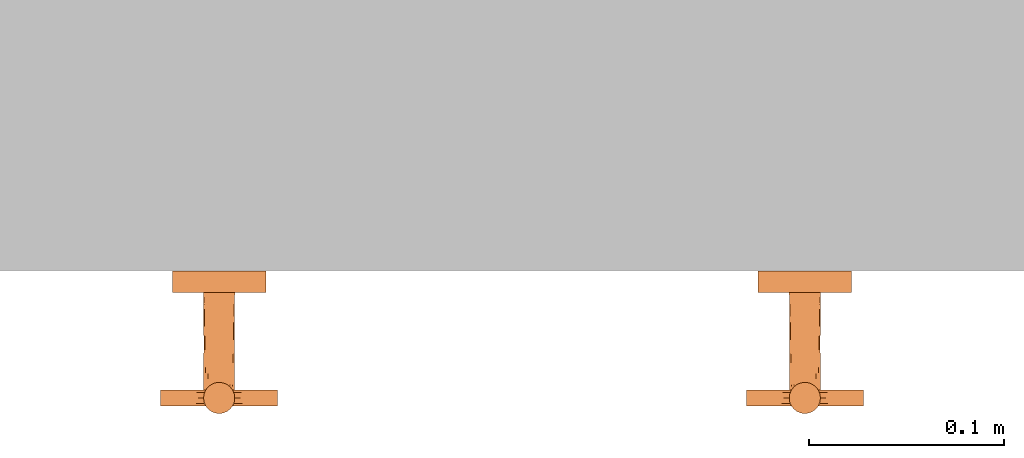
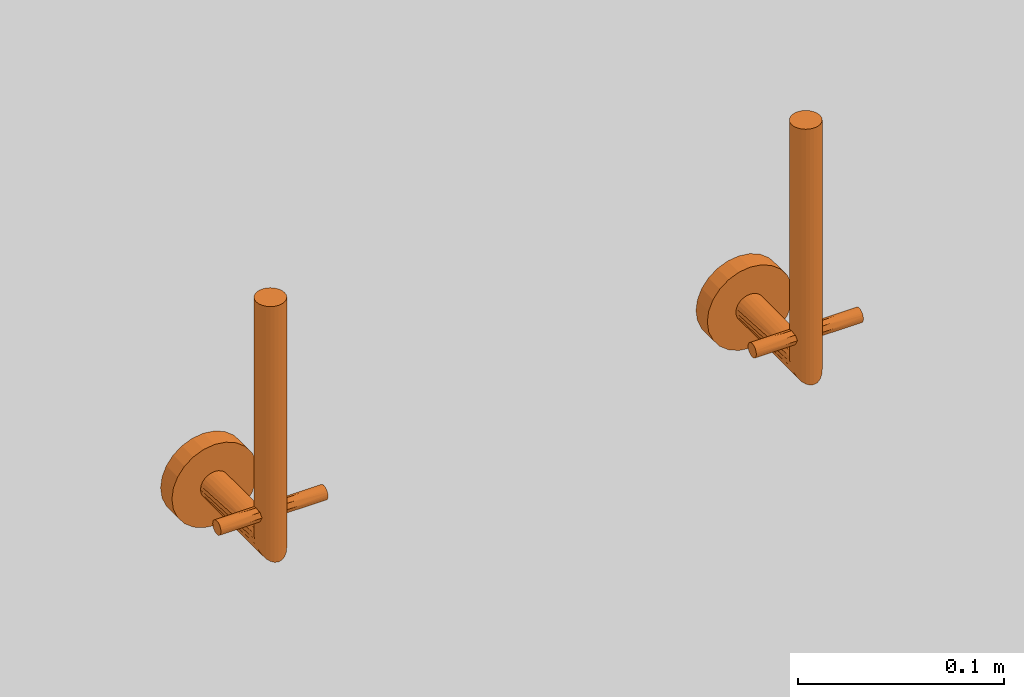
# One storey, part 2 of 3: 2 proxies.
"""IFC2X3 building model written with IfcOpenShell, lengths in millimetres."""

from ifc_helpers import new_model, entity, si_unit, converted_unit, derived_unit, direction, frame, origin, place, context, subcontext, project, spatial, faceted_brep, source, transform, mapped, material, type_object, type_shapes, element, save


model = new_model("IFC2X3")

# Units and contexts
model_context = context("Model", 3, precision=0.01, world=origin(), true_north=direction((6.12303176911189e-17, 1.0)))
body_context = subcontext(model_context, "Body", "Model", "MODEL_VIEW")
ifc_project = project(units=[si_unit("LENGTHUNIT", "METRE", prefix="MILLI"), si_unit("AREAUNIT", "SQUARE_METRE"), si_unit("VOLUMEUNIT", "CUBIC_METRE"), converted_unit("PLANEANGLEUNIT", "DEGREE", entity("IfcRatioMeasure", 0.0174532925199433), si_unit("PLANEANGLEUNIT", "RADIAN"), dimensions=[0, 0, 0, 0, 0, 0, 0]), si_unit("MASSUNIT", "GRAM", prefix="KILO"), derived_unit("MASSDENSITYUNIT", [(si_unit("MASSUNIT", "GRAM", prefix="KILO"), 1), (si_unit("LENGTHUNIT", "METRE"), -3)]), si_unit("TIMEUNIT", "SECOND"), si_unit("FREQUENCYUNIT", "HERTZ"), si_unit("THERMODYNAMICTEMPERATUREUNIT", "DEGREE_CELSIUS"), derived_unit("THERMALTRANSMITTANCEUNIT", [(si_unit("MASSUNIT", "GRAM", prefix="KILO"), 1), (si_unit("THERMODYNAMICTEMPERATUREUNIT", "KELVIN"), -1), (si_unit("TIMEUNIT", "SECOND"), -3)]), derived_unit("VOLUMETRICFLOWRATEUNIT", [(si_unit("LENGTHUNIT", "METRE"), 3), (si_unit("TIMEUNIT", "SECOND"), -1)]), si_unit("ELECTRICCURRENTUNIT", "AMPERE"), si_unit("ELECTRICVOLTAGEUNIT", "VOLT"), si_unit("POWERUNIT", "WATT"), si_unit("FORCEUNIT", "NEWTON", prefix="KILO"), si_unit("ILLUMINANCEUNIT", "LUX"), si_unit("LUMINOUSFLUXUNIT", "LUMEN"), si_unit("LUMINOUSINTENSITYUNIT", "CANDELA"), derived_unit("USERDEFINED", [(si_unit("MASSUNIT", "GRAM", prefix="KILO"), -1), (si_unit("LENGTHUNIT", "METRE"), -2), (si_unit("TIMEUNIT", "SECOND"), 3), (si_unit("LUMINOUSFLUXUNIT", "LUMEN"), 1)]), derived_unit("LINEARVELOCITYUNIT", [(si_unit("LENGTHUNIT", "METRE"), 1), (si_unit("TIMEUNIT", "SECOND"), -1)]), si_unit("PRESSUREUNIT", "PASCAL"), derived_unit("USERDEFINED", [(si_unit("LENGTHUNIT", "METRE"), -2), (si_unit("MASSUNIT", "GRAM", prefix="KILO"), 1), (si_unit("TIMEUNIT", "SECOND"), -2)])], contexts=[model_context])

# Site, building, storey
site_placement = place(None, origin())
site = spatial("IfcSite", under=ifc_project, at=site_placement, Name="Default", CompositionType="ELEMENT")
building_placement = place(site_placement, origin())
building = spatial("IfcBuilding", under=site, at=building_placement, CompositionType="ELEMENT")
storey_placement = place(building_placement, origin())
storey = spatial("IfcBuildingStorey", under=building, at=storey_placement, Name="Level 0", CompositionType="ELEMENT", Elevation=0.0)

# Proxies
ifc_material_1 = material(Name="Duten_Metal_MatteBlack")
building_element_proxy_type_1 = type_object("IfcBuildingElementProxyType", Name="Matte Black", PredefinedType="USERDEFINED", material=ifc_material_1)
shared_shape_1 = source(origin(), body_context, "Body", "Brep", [
    faceted_brep([(37.4826511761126, 62.1698177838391, 40.7686012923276), (36.9282032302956, 61.0, 43.5952722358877), (37.4826511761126, 62.1698177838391, 46.4219431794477), (38.0, 65.0, 47.5952722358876), (38.0, 65.0, 39.5952722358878), (60.0, 63.9647238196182, 47.4589755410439), (60.0, 63.0, 47.0593738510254), (60.0, 62.1715728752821, 46.4236993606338), (60.0, 61.5358983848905, 45.5952722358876), (60.0, 61.136296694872, 44.6305484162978), (60.0, 61.0, 43.5952722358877), (60.0, 61.136296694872, 42.5599960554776), (60.0, 61.5358983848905, 41.5952722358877), (60.0, 62.1715728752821, 40.7668451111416), (60.0, 63.0, 40.1311706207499), (60.0, 63.9647238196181, 39.7315689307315), (60.0, 65.0, 39.5952722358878), (60.0, 66.0352761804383, 39.7315689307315), (60.0, 67.0, 40.1311706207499), (60.0, 67.8284271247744, 40.7668451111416), (60.0, 68.4641016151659, 41.5952722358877), (60.0, 68.8637033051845, 42.5599960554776), (60.0, 69.0, 43.5952722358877), (60.0, 68.8637033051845, 44.6305484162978), (60.0, 68.4641016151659, 45.5952722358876), (60.0, 67.8284271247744, 46.4236993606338), (60.0, 67.0, 47.0593738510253), (60.0, 66.0352761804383, 47.4589755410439), (60.0, 65.0, 47.5952722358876), (36.9282032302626, 69.0, 43.5952722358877), (37.4826511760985, 67.8301822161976, 46.4219431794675), (37.4826511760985, 67.8301822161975, 40.7686012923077)], [[[0, 1, 2]], [[3, 4, 0, 2]], [[5, 6, 7, 8, 9, 10, 11, 12, 13, 14, 15, 16, 17, 18, 19, 20, 21, 22, 23, 24, 25, 26, 27, 28]], [[23, 29, 30]], [[3, 28, 27]], [[3, 26, 30]], [[27, 26, 3]], [[22, 29, 23]], [[30, 25, 24]], [[24, 23, 30]], [[25, 30, 26]], [[6, 3, 2]], [[2, 1, 9]], [[10, 9, 1]], [[5, 3, 6]], [[2, 8, 7]], [[7, 6, 2]], [[8, 2, 9]], [[3, 5, 28]], [[11, 1, 0]], [[4, 16, 15]], [[4, 14, 0]], [[15, 14, 4]], [[10, 1, 11]], [[12, 11, 0]], [[0, 13, 12]], [[0, 14, 13]], [[18, 4, 31]], [[31, 29, 21]], [[22, 21, 29]], [[18, 17, 4]], [[20, 19, 31]], [[21, 20, 31]], [[18, 31, 19]], [[4, 17, 16]], [[30, 31, 4, 3]], [[29, 31, 30]]]),
    faceted_brep([(22.5173488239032, 67.8301822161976, 40.7686012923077), (23.0717967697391, 69.0, 43.5952722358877), (22.5173488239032, 67.8301822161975, 46.4219431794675), (22.0, 65.0, 47.5952722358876), (22.0, 65.0, 39.5952722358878), (23.071796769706, 61.0, 43.5952722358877), (0.0, 61.0, 43.5952722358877), (0.0, 61.136296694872, 42.5599960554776), (0.0, 61.5358983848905, 41.5952722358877), (22.5173488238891, 62.1698177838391, 40.7686012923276), (0.0, 62.171572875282, 40.7668451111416), (0.0, 63.0, 40.1311706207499), (0.0, 63.9647238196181, 39.7315689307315), (0.0, 65.0, 39.5952722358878), (0.0, 66.0352761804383, 39.7315689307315), (0.0, 67.0, 40.1311706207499), (0.0, 67.8284271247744, 40.7668451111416), (0.0, 68.4641016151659, 41.5952722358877), (0.0, 68.8637033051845, 42.5599960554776), (0.0, 69.0, 43.5952722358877), (0.0, 68.8637033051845, 44.6305484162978), (0.0, 68.464101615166, 45.5952722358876), (0.0, 67.8284271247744, 46.4236993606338), (0.0, 67.0, 47.0593738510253), (0.0, 66.0352761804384, 47.4589755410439), (0.0, 65.0, 47.5952722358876), (0.0, 63.9647238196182, 47.4589755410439), (0.0, 63.0, 47.0593738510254), (22.5173488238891, 62.1698177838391, 46.4219431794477), (0.0, 62.1715728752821, 46.4236993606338), (0.0, 61.5358983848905, 45.5952722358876), (0.0, 61.136296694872, 44.6305484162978)], [[[0, 1, 2]], [[3, 4, 0, 2]], [[5, 6, 7]], [[7, 8, 9]], [[10, 9, 8]], [[5, 7, 9]], [[11, 12, 4]], [[4, 12, 13]], [[11, 4, 9]], [[10, 11, 9]], [[14, 15, 4]], [[15, 0, 4]], [[16, 0, 15]], [[0, 17, 18]], [[17, 0, 16]], [[18, 19, 1]], [[18, 1, 0]], [[14, 4, 13]], [[1, 19, 20]], [[20, 21, 2]], [[22, 2, 21]], [[1, 20, 2]], [[23, 24, 3]], [[3, 24, 25]], [[23, 3, 2]], [[22, 23, 2]], [[26, 27, 3]], [[27, 28, 3]], [[29, 28, 27]], [[28, 30, 31]], [[30, 28, 29]], [[31, 6, 5]], [[31, 5, 28]], [[26, 3, 25]], [[12, 11, 10, 8, 7, 6, 31, 30, 29, 27, 26, 25, 24, 23, 22, 21, 20, 19, 18, 17, 16, 15, 14, 13]], [[28, 9, 4, 3]], [[5, 9, 28]]]),
    faceted_brep([(22.0, 11.0, 25.5952722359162), (22.272593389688, 11.0, 23.524719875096), (23.0717967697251, 11.0, 21.5952722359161), (24.3431457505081, 11.0, 19.9384179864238), (26.0, 11.0, 18.6670690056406), (27.9294476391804, 11.0, 17.8678656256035), (30.0, 11.0, 17.5952722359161), (32.0705523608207, 11.0, 17.8678656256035), (34.0, 11.0, 18.6670690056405), (35.656854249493, 11.0, 19.9384179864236), (36.9282032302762, 11.0, 21.595272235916), (37.7274066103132, 11.0, 23.5247198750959), (38.0, 11.0, 25.5952722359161), (37.7274066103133, 11.0, 27.6658245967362), (36.9282032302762, 11.0, 29.5952722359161), (35.6568542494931, 11.0, 31.2521264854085), (34.0, 11.0, 32.5234754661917), (32.0705523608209, 11.0, 33.3226788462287), (30.0, 11.0, 33.5952722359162), (27.9294476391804, 11.0, 33.3226788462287), (26.0, 11.0, 32.5234754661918), (24.3431457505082, 11.0, 31.2521264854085), (23.0717967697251, 11.0, 29.5952722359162), (22.272593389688, 11.0, 27.6658245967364), (30.0, 73.0, 17.5952722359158), (32.0705523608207, 72.7274066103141, 17.8678656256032), (34.0, 71.9282032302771, 18.6670690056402), (35.656854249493, 70.656854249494, 19.9384179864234), (36.9282032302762, 69.0, 21.5952722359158), (37.7274066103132, 67.0705523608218, 23.5247198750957), (38.0, 65.0, 25.5952722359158), (37.7274066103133, 62.9294476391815, 27.665824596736), (36.9282032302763, 61.0, 29.5952722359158), (35.6568542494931, 59.3431457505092, 31.2521264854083), (32.0705523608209, 57.272593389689, 33.3226788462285), (30.0, 57.0, 33.595272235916), (34.0, 58.071796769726, 32.5234754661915), (26.0, 58.0717967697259, 32.5234754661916), (24.3431457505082, 59.3431457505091, 31.2521264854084), (27.9294476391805, 57.2725933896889, 33.3226788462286), (23.071796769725, 61.0, 29.595272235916), (22.272593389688, 62.9294476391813, 27.665824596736), (22.0, 65.0, 25.5952722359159), (23.071796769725, 69.0, 21.5952722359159), (22.272593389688, 67.0705523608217, 23.5247198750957), (24.3431457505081, 70.6568542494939, 19.9384179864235), (26.0, 71.9282032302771, 18.6670690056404), (27.9294476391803, 72.7274066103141, 17.8678656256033), (22.0, 65.0, 169.595272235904), (22.2725933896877, 62.9294476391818, 169.595272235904), (23.0717967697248, 61.0, 169.595272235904), (24.3431457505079, 59.3431457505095, 169.595272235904), (26.0, 58.0717967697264, 169.595272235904), (27.9294476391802, 57.2725933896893, 169.595272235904), (30.0, 57.0, 169.595272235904), (32.0705523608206, 57.2725933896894, 169.595272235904), (34.0, 58.0717967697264, 169.595272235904), (35.6568542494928, 59.3431457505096, 169.595272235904), (36.9282032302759, 61.0, 169.595272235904), (37.727406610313, 62.9294476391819, 169.595272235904), (38.0, 65.0, 169.595272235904), (37.727406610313, 67.0705523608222, 169.595272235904), (36.9282032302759, 69.0, 169.595272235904), (35.6568542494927, 70.6568542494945, 169.595272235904), (34.0, 71.9282032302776, 169.595272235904), (32.0705523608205, 72.7274066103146, 169.595272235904), (30.0, 73.0, 169.595272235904), (27.92944763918, 72.7274066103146, 169.595272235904), (26.0, 71.9282032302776, 169.595272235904), (24.3431457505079, 70.6568542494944, 169.595272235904), (23.0717967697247, 69.0, 169.595272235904), (22.2725933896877, 67.0705523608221, 169.595272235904)], [[[0, 1, 2, 3, 4, 5, 6, 7, 8, 9, 10, 11, 12, 13, 14, 15, 16, 17, 18, 19, 20, 21, 22, 23]], [[6, 24, 25, 7]], [[26, 7, 25]], [[8, 27, 28]], [[26, 27, 7]], [[9, 28, 29]], [[27, 8, 7]], [[11, 30, 31]], [[30, 11, 10]], [[9, 29, 10]], [[9, 8, 28]], [[29, 30, 10]], [[32, 33, 13]], [[31, 32, 12]], [[34, 35, 18, 17]], [[36, 34, 17, 16]], [[33, 36, 16, 15]], [[33, 14, 13]], [[13, 12, 32]], [[15, 14, 33]], [[31, 12, 11]], [[37, 38, 21, 20]], [[39, 37, 20, 19]], [[0, 40, 41]], [[23, 40, 0]], [[38, 40, 23]], [[35, 39, 19, 18]], [[22, 21, 38]], [[38, 23, 22]], [[41, 42, 1]], [[43, 3, 44]], [[45, 4, 43]], [[5, 46, 47]], [[45, 46, 5]], [[6, 5, 47, 24]], [[2, 1, 42]], [[0, 41, 1]], [[5, 4, 45]], [[3, 43, 4]], [[3, 2, 44]], [[42, 44, 2]], [[48, 49, 50, 51, 52, 53, 54, 55, 56, 57, 58, 59, 60, 61, 62, 63, 64, 65, 66, 67, 68, 69, 70, 71]], [[65, 64, 26, 25]], [[66, 65, 25, 24]], [[62, 61, 29, 28]], [[63, 62, 28, 27]], [[64, 63, 27, 26]], [[61, 60, 30, 29]], [[58, 57, 33, 32]], [[59, 58, 32, 31]], [[55, 54, 35, 34]], [[56, 55, 34, 36]], [[57, 56, 36, 33]], [[59, 31, 30, 60]], [[53, 52, 37, 39]], [[54, 53, 39, 35]], [[50, 49, 41, 40]], [[51, 50, 40, 38]], [[52, 51, 38, 37]], [[48, 42, 41, 49]], [[70, 69, 45, 43]], [[71, 70, 43, 44]], [[46, 68, 67, 47]], [[69, 68, 46, 45]], [[66, 24, 47, 67]], [[44, 42, 48, 71]]]),
    faceted_brep([(18.0, 0.0, 46.3798819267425), (13.0294372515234, 0.0, 42.5658349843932), (9.21539030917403, 0.0, 37.5952722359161), (6.81778016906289, 0.0, 31.8069293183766), (6.0, 0.0, 25.595272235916), (6.81778016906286, 0.0, 19.3836151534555), (9.21539030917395, 0.0, 13.595272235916), (13.0294372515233, 0.0, 8.62470948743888), (18.0, 0.0, 4.81066254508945), (23.78834291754, 0.0, 2.4130524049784), (30.0, 0.0, 1.59527223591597), (36.211657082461, 0.0, 2.41305240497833), (42.0, 0.0, 4.81066254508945), (46.9705627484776, 0.0, 8.62470948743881), (50.784609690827, 0.0, 13.5952722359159), (53.1822198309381, 0.0, 19.3836151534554), (54.0, 0.0, 25.5952722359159), (53.1822198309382, 0.0, 31.8069293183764), (50.7846096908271, 0.0, 37.595272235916), (46.9705627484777, 0.0, 42.565834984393), (42.0, 0.0, 46.3798819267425), (36.2116570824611, 0.0, 48.7774920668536), (30.0, 0.0, 49.5952722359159), (23.7883429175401, 0.0, 48.7774920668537), (23.78834291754, 11.0, 2.4130524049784), (18.0, 11.0, 4.81066254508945), (13.0294372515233, 11.0, 8.62470948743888), (9.21539030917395, 11.0, 13.595272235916), (6.81778016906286, 11.0, 19.3836151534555), (6.0, 11.0, 25.5952722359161), (6.81778016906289, 11.0, 31.8069293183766), (9.21539030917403, 11.0, 37.5952722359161), (13.0294372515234, 11.0, 42.5658349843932), (18.0, 11.0, 46.3798819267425), (23.7883429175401, 11.0, 48.7774920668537), (30.0, 11.0, 49.5952722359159), (36.2116570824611, 11.0, 48.7774920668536), (42.0, 11.0, 46.3798819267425), (46.9705627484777, 11.0, 42.565834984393), (50.7846096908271, 11.0, 37.595272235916), (53.1822198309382, 11.0, 31.8069293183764), (54.0, 11.0, 25.5952722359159), (53.1822198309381, 11.0, 19.3836151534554), (50.784609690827, 11.0, 13.5952722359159), (46.9705627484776, 11.0, 8.62470948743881), (42.0, 11.0, 4.81066254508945), (36.211657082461, 11.0, 2.41305240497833), (30.0, 11.0, 1.59527223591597)], [[[0, 1, 2, 3, 4, 5, 6, 7, 8, 9, 10, 11, 12, 13, 14, 15, 16, 17, 18, 19, 20, 21, 22, 23]], [[24, 25, 26, 27, 28, 29, 30, 31, 32, 33, 34, 35, 36, 37, 38, 39, 40, 41, 42, 43, 44, 45, 46, 47]], [[40, 17, 16, 41]], [[39, 18, 17, 40]], [[20, 19, 38, 37]], [[39, 38, 19, 18]], [[21, 20, 37, 36]], [[22, 21, 36, 35]], [[34, 23, 22, 35]], [[33, 0, 23, 34]], [[2, 1, 32, 31]], [[33, 32, 1, 0]], [[3, 2, 31, 30]], [[4, 3, 30, 29]], [[28, 5, 4, 29]], [[27, 6, 5, 28]], [[8, 7, 26, 25]], [[27, 26, 7, 6]], [[9, 8, 25, 24]], [[10, 9, 24, 47]], [[46, 11, 10, 47]], [[45, 12, 11, 46]], [[14, 13, 44, 43]], [[45, 44, 13, 12]], [[15, 14, 43, 42]], [[16, 15, 42, 41]]]),
])
type_shapes(building_element_proxy_type_1, [shared_shape_1])
proxy_1_placement = place(storey_placement, frame((-4532.06711548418, 781.719275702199, 574.404727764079), z_axis=(0.0, 0.0, 1.0), x_axis=(-1.0, 0.0, 0.0)))
element("IfcBuildingElementProxy", 1, at=proxy_1_placement, inside=storey, type_object=building_element_proxy_type_1, material=ifc_material_1, Name="Duten_PprRllDpnsrs_H107:Matte Black", ObjectType="Matte Black", context=body_context, shape_type="MappedRepresentation", body=[
    mapped(shared_shape_1, transform((0.0, 0.0, 0.0), scale=1.0)),
])
ifc_material_2 = material(Name="Duten_Metal_Polished")
building_element_proxy_type_2 = type_object("IfcBuildingElementProxyType", Name="Polished Stainless Steel", PredefinedType="USERDEFINED", material=ifc_material_2)
shared_shape_2 = source(origin(), body_context, "Body", "Brep", [
    faceted_brep([(37.4826511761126, 62.1698177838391, 40.7686012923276), (36.9282032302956, 61.0, 43.5952722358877), (37.4826511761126, 62.1698177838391, 46.4219431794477), (38.0, 65.0, 47.5952722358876), (38.0, 65.0, 39.5952722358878), (60.0, 63.9647238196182, 47.4589755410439), (60.0, 63.0, 47.0593738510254), (60.0, 62.1715728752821, 46.4236993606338), (60.0, 61.5358983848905, 45.5952722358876), (60.0, 61.136296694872, 44.6305484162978), (60.0, 61.0, 43.5952722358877), (60.0, 61.136296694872, 42.5599960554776), (60.0, 61.5358983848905, 41.5952722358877), (60.0, 62.1715728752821, 40.7668451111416), (60.0, 63.0, 40.1311706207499), (60.0, 63.9647238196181, 39.7315689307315), (60.0, 65.0, 39.5952722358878), (60.0, 66.0352761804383, 39.7315689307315), (60.0, 67.0, 40.1311706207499), (60.0, 67.8284271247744, 40.7668451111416), (60.0, 68.4641016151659, 41.5952722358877), (60.0, 68.8637033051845, 42.5599960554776), (60.0, 69.0, 43.5952722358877), (60.0, 68.8637033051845, 44.6305484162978), (60.0, 68.4641016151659, 45.5952722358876), (60.0, 67.8284271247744, 46.4236993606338), (60.0, 67.0, 47.0593738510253), (60.0, 66.0352761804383, 47.4589755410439), (60.0, 65.0, 47.5952722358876), (36.9282032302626, 69.0, 43.5952722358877), (37.4826511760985, 67.8301822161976, 46.4219431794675), (37.4826511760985, 67.8301822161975, 40.7686012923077)], [[[0, 1, 2]], [[3, 4, 0, 2]], [[5, 6, 7, 8, 9, 10, 11, 12, 13, 14, 15, 16, 17, 18, 19, 20, 21, 22, 23, 24, 25, 26, 27, 28]], [[23, 29, 30]], [[3, 28, 27]], [[3, 26, 30]], [[27, 26, 3]], [[22, 29, 23]], [[30, 25, 24]], [[24, 23, 30]], [[25, 30, 26]], [[6, 3, 2]], [[2, 1, 9]], [[10, 9, 1]], [[5, 3, 6]], [[2, 8, 7]], [[7, 6, 2]], [[8, 2, 9]], [[3, 5, 28]], [[11, 1, 0]], [[4, 16, 15]], [[4, 14, 0]], [[15, 14, 4]], [[10, 1, 11]], [[12, 11, 0]], [[0, 13, 12]], [[0, 14, 13]], [[18, 4, 31]], [[31, 29, 21]], [[22, 21, 29]], [[18, 17, 4]], [[20, 19, 31]], [[21, 20, 31]], [[18, 31, 19]], [[4, 17, 16]], [[30, 31, 4, 3]], [[29, 31, 30]]]),
    faceted_brep([(23.071796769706, 61.0, 43.5952722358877), (0.0, 61.0, 43.5952722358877), (0.0, 61.136296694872, 42.5599960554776), (0.0, 61.5358983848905, 41.5952722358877), (22.5173488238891, 62.1698177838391, 40.7686012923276), (0.0, 62.171572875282, 40.7668451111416), (0.0, 63.0, 40.1311706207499), (0.0, 63.9647238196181, 39.7315689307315), (22.0, 65.0, 39.5952722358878), (0.0, 65.0, 39.5952722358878), (0.0, 66.0352761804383, 39.7315689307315), (0.0, 67.0, 40.1311706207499), (22.5173488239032, 67.8301822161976, 40.7686012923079), (0.0, 67.8284271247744, 40.7668451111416), (0.0, 68.4641016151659, 41.5952722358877), (0.0, 68.8637033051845, 42.5599960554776), (0.0, 69.0, 43.5952722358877), (23.0717967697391, 69.0, 43.5952722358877), (22.5173488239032, 67.8301822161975, 46.4219431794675), (22.0, 65.0, 47.5952722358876), (0.0, 68.8637033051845, 44.6305484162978), (0.0, 68.464101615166, 45.5952722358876), (0.0, 67.8284271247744, 46.4236993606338), (0.0, 67.0, 47.0593738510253), (0.0, 66.0352761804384, 47.4589755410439), (0.0, 65.0, 47.5952722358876), (0.0, 63.9647238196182, 47.4589755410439), (0.0, 63.0, 47.0593738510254), (22.5173488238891, 62.1698177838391, 46.4219431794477), (0.0, 62.1715728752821, 46.4236993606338), (0.0, 61.5358983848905, 45.5952722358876), (0.0, 61.136296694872, 44.6305484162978)], [[[0, 1, 2]], [[2, 3, 4]], [[5, 4, 3]], [[0, 2, 4]], [[6, 7, 8]], [[8, 7, 9]], [[6, 8, 4]], [[5, 6, 4]], [[10, 11, 8]], [[11, 12, 8]], [[13, 12, 11]], [[12, 14, 15]], [[14, 12, 13]], [[15, 16, 17]], [[15, 17, 12]], [[10, 8, 9]], [[12, 17, 18]], [[19, 8, 12, 18]], [[17, 16, 20]], [[20, 21, 18]], [[22, 18, 21]], [[17, 20, 18]], [[23, 24, 19]], [[19, 24, 25]], [[23, 19, 18]], [[22, 23, 18]], [[26, 27, 19]], [[27, 28, 19]], [[29, 28, 27]], [[28, 30, 31]], [[30, 28, 29]], [[31, 1, 0]], [[31, 0, 28]], [[26, 19, 25]], [[7, 6, 5, 3, 2, 1, 31, 30, 29, 27, 26, 25, 24, 23, 22, 21, 20, 16, 15, 14, 13, 11, 10, 9]], [[28, 4, 8, 19]], [[0, 4, 28]]]),
    faceted_brep([(22.0, 11.0, 25.5952722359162), (22.272593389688, 11.0, 23.524719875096), (23.0717967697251, 11.0, 21.5952722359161), (24.3431457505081, 11.0, 19.9384179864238), (26.0, 11.0, 18.6670690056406), (27.9294476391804, 11.0, 17.8678656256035), (30.0, 11.0, 17.5952722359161), (32.0705523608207, 11.0, 17.8678656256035), (34.0, 11.0, 18.6670690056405), (35.656854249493, 11.0, 19.9384179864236), (36.9282032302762, 11.0, 21.595272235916), (37.7274066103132, 11.0, 23.5247198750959), (38.0, 11.0, 25.5952722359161), (37.7274066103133, 11.0, 27.6658245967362), (36.9282032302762, 11.0, 29.5952722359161), (35.6568542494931, 11.0, 31.2521264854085), (34.0, 11.0, 32.5234754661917), (32.0705523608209, 11.0, 33.3226788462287), (30.0, 11.0, 33.5952722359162), (27.9294476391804, 11.0, 33.3226788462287), (26.0, 11.0, 32.5234754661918), (24.3431457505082, 11.0, 31.2521264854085), (23.0717967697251, 11.0, 29.5952722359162), (22.272593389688, 11.0, 27.6658245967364), (30.0, 73.0, 17.5952722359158), (32.0705523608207, 72.7274066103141, 17.8678656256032), (34.0, 71.9282032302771, 18.6670690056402), (35.656854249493, 70.656854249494, 19.9384179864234), (36.9282032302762, 69.0, 21.5952722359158), (37.7274066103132, 67.0705523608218, 23.5247198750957), (38.0, 65.0, 25.5952722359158), (37.7274066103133, 62.9294476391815, 27.665824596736), (36.9282032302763, 61.0, 29.5952722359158), (35.6568542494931, 59.3431457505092, 31.2521264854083), (32.0705523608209, 57.272593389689, 33.3226788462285), (30.0, 57.0, 33.595272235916), (34.0, 58.071796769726, 32.5234754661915), (26.0, 58.0717967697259, 32.5234754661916), (24.3431457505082, 59.3431457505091, 31.2521264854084), (27.9294476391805, 57.2725933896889, 33.3226788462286), (23.071796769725, 61.0, 29.595272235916), (22.272593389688, 62.9294476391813, 27.665824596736), (22.0, 65.0, 25.5952722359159), (23.071796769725, 69.0, 21.5952722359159), (22.272593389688, 67.0705523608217, 23.5247198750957), (24.3431457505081, 70.6568542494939, 19.9384179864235), (26.0, 71.9282032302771, 18.6670690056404), (27.9294476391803, 72.7274066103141, 17.8678656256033), (22.0, 65.0, 169.595272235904), (22.2725933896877, 62.9294476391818, 169.595272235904), (23.0717967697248, 61.0, 169.595272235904), (24.3431457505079, 59.3431457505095, 169.595272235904), (26.0, 58.0717967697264, 169.595272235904), (27.9294476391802, 57.2725933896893, 169.595272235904), (30.0, 57.0, 169.595272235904), (32.0705523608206, 57.2725933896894, 169.595272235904), (34.0, 58.0717967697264, 169.595272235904), (35.6568542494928, 59.3431457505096, 169.595272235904), (36.9282032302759, 61.0, 169.595272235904), (37.727406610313, 62.9294476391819, 169.595272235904), (38.0, 65.0, 169.595272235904), (37.727406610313, 67.0705523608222, 169.595272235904), (36.9282032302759, 69.0, 169.595272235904), (35.6568542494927, 70.6568542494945, 169.595272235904), (34.0, 71.9282032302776, 169.595272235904), (32.0705523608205, 72.7274066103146, 169.595272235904), (30.0, 73.0, 169.595272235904), (27.92944763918, 72.7274066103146, 169.595272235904), (26.0, 71.9282032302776, 169.595272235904), (24.3431457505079, 70.6568542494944, 169.595272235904), (23.0717967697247, 69.0, 169.595272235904), (22.2725933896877, 67.0705523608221, 169.595272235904)], [[[0, 1, 2, 3, 4, 5, 6, 7, 8, 9, 10, 11, 12, 13, 14, 15, 16, 17, 18, 19, 20, 21, 22, 23]], [[6, 24, 25, 7]], [[26, 7, 25]], [[8, 27, 28]], [[26, 27, 7]], [[9, 28, 29]], [[27, 8, 7]], [[11, 30, 31]], [[30, 11, 10]], [[9, 29, 10]], [[9, 8, 28]], [[29, 30, 10]], [[32, 33, 13]], [[31, 32, 12]], [[34, 35, 18, 17]], [[36, 34, 17, 16]], [[33, 36, 16, 15]], [[33, 14, 13]], [[13, 12, 32]], [[15, 14, 33]], [[31, 12, 11]], [[37, 38, 21, 20]], [[39, 37, 20, 19]], [[0, 40, 41]], [[23, 40, 0]], [[38, 40, 23]], [[35, 39, 19, 18]], [[22, 21, 38]], [[38, 23, 22]], [[41, 42, 1]], [[43, 3, 44]], [[45, 4, 43]], [[5, 46, 47]], [[45, 46, 5]], [[6, 5, 47, 24]], [[2, 1, 42]], [[0, 41, 1]], [[5, 4, 45]], [[3, 43, 4]], [[3, 2, 44]], [[42, 44, 2]], [[48, 49, 50, 51, 52, 53, 54, 55, 56, 57, 58, 59, 60, 61, 62, 63, 64, 65, 66, 67, 68, 69, 70, 71]], [[65, 64, 26, 25]], [[66, 65, 25, 24]], [[62, 61, 29, 28]], [[63, 62, 28, 27]], [[64, 63, 27, 26]], [[61, 60, 30, 29]], [[58, 57, 33, 32]], [[59, 58, 32, 31]], [[55, 54, 35, 34]], [[56, 55, 34, 36]], [[57, 56, 36, 33]], [[59, 31, 30, 60]], [[53, 52, 37, 39]], [[54, 53, 39, 35]], [[50, 49, 41, 40]], [[51, 50, 40, 38]], [[52, 51, 38, 37]], [[48, 42, 41, 49]], [[70, 69, 45, 43]], [[71, 70, 43, 44]], [[46, 68, 67, 47]], [[69, 68, 46, 45]], [[66, 24, 47, 67]], [[44, 42, 48, 71]]]),
    faceted_brep([(18.0, 0.0, 46.3798819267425), (13.0294372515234, 0.0, 42.5658349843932), (9.21539030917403, 0.0, 37.5952722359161), (6.81778016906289, 0.0, 31.8069293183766), (6.0, 0.0, 25.595272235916), (6.81778016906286, 0.0, 19.3836151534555), (9.21539030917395, 0.0, 13.595272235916), (13.0294372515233, 0.0, 8.62470948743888), (18.0, 0.0, 4.81066254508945), (23.78834291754, 0.0, 2.4130524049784), (30.0, 0.0, 1.59527223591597), (36.211657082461, 0.0, 2.41305240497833), (42.0, 0.0, 4.81066254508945), (46.9705627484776, 0.0, 8.62470948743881), (50.784609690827, 0.0, 13.5952722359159), (53.1822198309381, 0.0, 19.3836151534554), (54.0, 0.0, 25.5952722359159), (53.1822198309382, 0.0, 31.8069293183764), (50.7846096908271, 0.0, 37.595272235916), (46.9705627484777, 0.0, 42.565834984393), (42.0, 0.0, 46.3798819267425), (36.2116570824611, 0.0, 48.7774920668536), (30.0, 0.0, 49.5952722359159), (23.7883429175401, 0.0, 48.7774920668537), (23.78834291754, 11.0, 2.4130524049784), (18.0, 11.0, 4.81066254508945), (13.0294372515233, 11.0, 8.62470948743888), (9.21539030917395, 11.0, 13.595272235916), (6.81778016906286, 11.0, 19.3836151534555), (6.0, 11.0, 25.5952722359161), (6.81778016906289, 11.0, 31.8069293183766), (9.21539030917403, 11.0, 37.5952722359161), (13.0294372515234, 11.0, 42.5658349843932), (18.0, 11.0, 46.3798819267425), (23.7883429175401, 11.0, 48.7774920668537), (30.0, 11.0, 49.5952722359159), (36.2116570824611, 11.0, 48.7774920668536), (42.0, 11.0, 46.3798819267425), (46.9705627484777, 11.0, 42.565834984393), (50.7846096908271, 11.0, 37.595272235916), (53.1822198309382, 11.0, 31.8069293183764), (54.0, 11.0, 25.5952722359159), (53.1822198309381, 11.0, 19.3836151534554), (50.784609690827, 11.0, 13.5952722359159), (46.9705627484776, 11.0, 8.62470948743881), (42.0, 11.0, 4.81066254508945), (36.211657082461, 11.0, 2.41305240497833), (30.0, 11.0, 1.59527223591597)], [[[0, 1, 2, 3, 4, 5, 6, 7, 8, 9, 10, 11, 12, 13, 14, 15, 16, 17, 18, 19, 20, 21, 22, 23]], [[24, 25, 26, 27, 28, 29, 30, 31, 32, 33, 34, 35, 36, 37, 38, 39, 40, 41, 42, 43, 44, 45, 46, 47]], [[40, 17, 16, 41]], [[39, 18, 17, 40]], [[20, 19, 38, 37]], [[39, 38, 19, 18]], [[21, 20, 37, 36]], [[22, 21, 36, 35]], [[34, 23, 22, 35]], [[33, 0, 23, 34]], [[2, 1, 32, 31]], [[33, 32, 1, 0]], [[3, 2, 31, 30]], [[4, 3, 30, 29]], [[28, 5, 4, 29]], [[27, 6, 5, 28]], [[8, 7, 26, 25]], [[27, 26, 7, 6]], [[9, 8, 25, 24]], [[10, 9, 24, 47]], [[46, 11, 10, 47]], [[45, 12, 11, 46]], [[14, 13, 44, 43]], [[45, 44, 13, 12]], [[15, 14, 43, 42]], [[16, 15, 42, 41]]]),
])
type_shapes(building_element_proxy_type_2, [shared_shape_2])
proxy_2_placement = place(storey_placement, frame((-4232.06711548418, 781.719275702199, 574.40472776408), z_axis=(0.0, 0.0, 1.0), x_axis=(-1.0, 0.0, 0.0)))
element("IfcBuildingElementProxy", 2, at=proxy_2_placement, inside=storey, type_object=building_element_proxy_type_2, material=ifc_material_2, Name="Duten_PprRllDpnsrs_H107:Polished Stainless Steel", ObjectType="Polished Stainless Steel", context=body_context, shape_type="MappedRepresentation", body=[
    mapped(shared_shape_2, transform((0.0, 0.0, 0.0), scale=1.0)),
])

save(model, "model.ifc")
